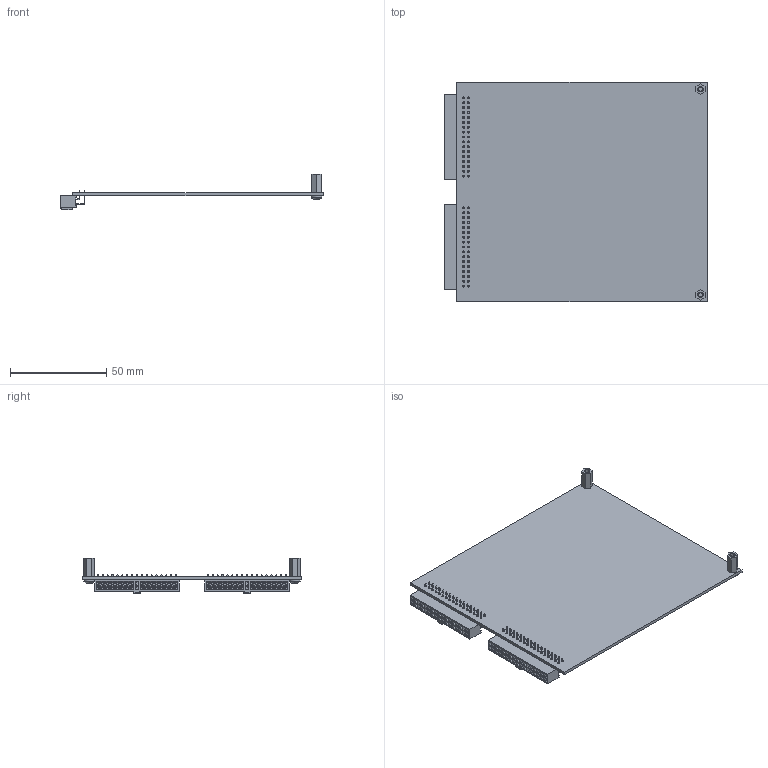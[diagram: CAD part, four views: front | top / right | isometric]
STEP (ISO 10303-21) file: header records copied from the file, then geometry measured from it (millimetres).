
FILE_DESCRIPTION((''),'2;1');
FILE_NAME('CCA_MXP_MINI_DUAL_01_ASM','2016-08-01T',('llai'),(''),'CREO PARAMETRIC BY PTC INC, 2015380','CREO PARAMETRIC BY PTC INC, 2015380','');
FILE_SCHEMA(('CONFIG_CONTROL_DESIGN'));
Products named in the file (5): PCB_MXP_MINI_DUAL_01; CONN_RCPT_2X17_RA_TH_KEY; STANDOFF_HEX_F-F_SS_4-40; PNH_PHIL_440X0250_NYL; CCA_MXP_MINI_DUAL_01_ASM
Assembly tree (7 placements, depth 2):
  CCA_MXP_MINI_DUAL_01_ASM
    PCB_MXP_MINI_DUAL_01
    CONN_RCPT_2X17_RA_TH_KEY  x2
    STANDOFF_HEX_F-F_SS_4-40  x2
    PNH_PHIL_440X0250_NYL  x2
Bounding box: 136.33 x 113.79 x 18.2 mm (x, y, z)
Volume: 27493.6 mm3; surface area: 37405.1 mm2
Topology: 7 solids, 9 shells, 1652 faces, 4198 edges, 2658 vertices
Faces by surface type: plane 1312, cylinder 292, bspline 40, torus 4, sphere 4
Entity records: 27672 total; most frequent: CARTESIAN_POINT 5192, ORIENTED_EDGE 4586, DIRECTION 4501, EDGE_CURVE 2295, VECTOR 1807, LINE 1807, VERTEX_POINT 1492, AXIS2_PLACEMENT_3D 1347
